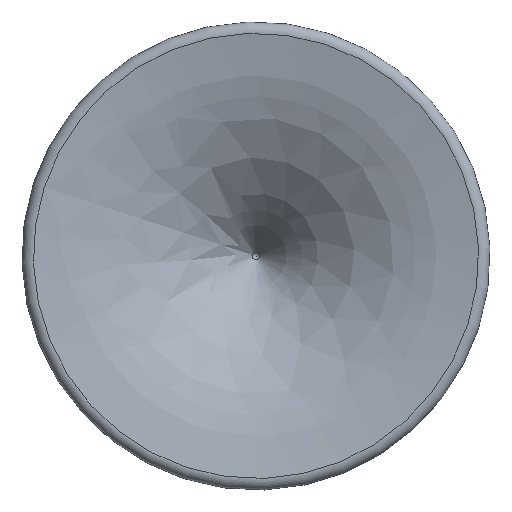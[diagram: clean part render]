
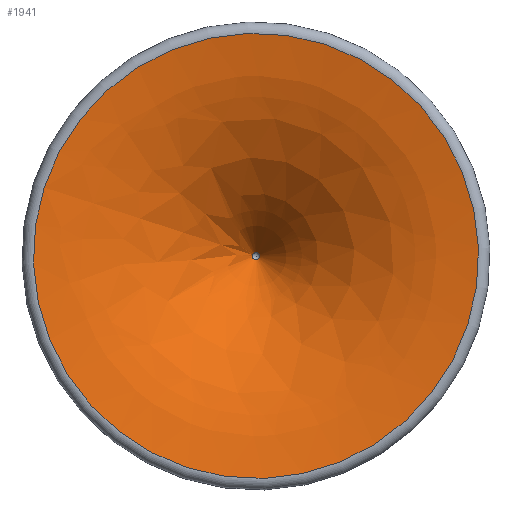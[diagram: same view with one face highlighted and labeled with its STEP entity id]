
A CAD part, top view. The second image highlights one B-rep face of the part: STEP entity #1941.
In plain terms, the highlighted free-form (B-spline) face has degree [2, 2] with [3, 9] control points.
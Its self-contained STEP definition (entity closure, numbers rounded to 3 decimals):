
#18=(
BOUNDED_SURFACE()
B_SPLINE_SURFACE(2,2,((#3646,#3647,#3648,#3649,#3650,#3651,#3652,#3653,
#3654),(#3655,#3656,#3657,#3658,#3659,#3660,#3661,#3662,#3663),(#3664,#3665,
#3666,#3667,#3668,#3669,#3670,#3671,#3672)),.UNSPECIFIED.,.F.,.T.,.F.)
B_SPLINE_SURFACE_WITH_KNOTS((3,3),(3,2,2,2,3),(1.675,2.543),
(-3.142,-1.571,0.,1.571,3.142),
 .UNSPECIFIED.)
GEOMETRIC_REPRESENTATION_ITEM()
RATIONAL_B_SPLINE_SURFACE(((1.,0.707,1.,0.707,1.,
0.707,1.,0.707,1.),(0.907,0.642,
0.907,0.642,0.907,0.642,
0.907,0.642,0.907),(1.,0.707,
1.,0.707,1.,0.707,1.,0.707,1.)))
REPRESENTATION_ITEM('')
SURFACE()
);
#367=FACE_OUTER_BOUND('',#531,.T.);
#531=EDGE_LOOP('',(#1678,#1679,#1680,#1681,#1682));
#870=CIRCLE('',#2402,4.129);
#872=CIRCLE('',#2404,4.129);
#873=CIRCLE('',#2405,256.751);
#874=CIRCLE('',#2406,350.);
#1027=VERTEX_POINT('',#3640);
#1028=VERTEX_POINT('',#3641);
#1030=VERTEX_POINT('',#3673);
#1249=EDGE_CURVE('',#1027,#1028,#870,.T.);
#1251=EDGE_CURVE('',#1028,#1027,#872,.T.);
#1252=EDGE_CURVE('',#1030,#1030,#873,.T.);
#1253=EDGE_CURVE('',#1030,#1027,#874,.T.);
#1678=ORIENTED_EDGE('',*,*,#1252,.T.);
#1679=ORIENTED_EDGE('',*,*,#1253,.T.);
#1680=ORIENTED_EDGE('',*,*,#1251,.F.);
#1681=ORIENTED_EDGE('',*,*,#1249,.F.);
#1682=ORIENTED_EDGE('',*,*,#1253,.F.);
#1941=ADVANCED_FACE('',(#367),#18,.F.);
#2402=AXIS2_PLACEMENT_3D('',#3642,#2971,#2972);
#2404=AXIS2_PLACEMENT_3D('',#3645,#2975,#2976);
#2405=AXIS2_PLACEMENT_3D('',#3674,#2977,#2978);
#2406=AXIS2_PLACEMENT_3D('',#3675,#2979,#2980);
#2971=DIRECTION('center_axis',(0.,0.,1.));
#2972=DIRECTION('ref_axis',(1.,0.,0.));
#2975=DIRECTION('center_axis',(0.,0.,1.));
#2976=DIRECTION('ref_axis',(1.,0.,0.));
#2977=DIRECTION('center_axis',(0.,0.,1.));
#2978=DIRECTION('ref_axis',(1.,0.,0.));
#2979=DIRECTION('center_axis',(0.,1.,0.));
#2980=DIRECTION('ref_axis',(-1.,0.,0.));
#3640=CARTESIAN_POINT('',(-4.129,0.,338.681));
#3641=CARTESIAN_POINT('',(0.,4.129,338.681));
#3642=CARTESIAN_POINT('Origin',(0.,0.,338.681));
#3645=CARTESIAN_POINT('Origin',(0.,0.,338.681));
#3646=CARTESIAN_POINT('Ctrl Pts',(-256.751,0.,
489.435));
#3647=CARTESIAN_POINT('Ctrl Pts',(-256.751,-256.751,489.435));
#3648=CARTESIAN_POINT('Ctrl Pts',(0.,-256.751,
489.435));
#3649=CARTESIAN_POINT('Ctrl Pts',(256.751,-256.751,489.435));
#3650=CARTESIAN_POINT('Ctrl Pts',(256.751,0.,
489.435));
#3651=CARTESIAN_POINT('Ctrl Pts',(256.751,256.751,489.435));
#3652=CARTESIAN_POINT('Ctrl Pts',(0.,256.751,
489.435));
#3653=CARTESIAN_POINT('Ctrl Pts',(-256.751,256.751,489.435));
#3654=CARTESIAN_POINT('Ctrl Pts',(-256.751,0.,
489.435));
#3655=CARTESIAN_POINT('Ctrl Pts',(-95.529,0.,
472.559));
#3656=CARTESIAN_POINT('Ctrl Pts',(-95.529,-95.529,472.559));
#3657=CARTESIAN_POINT('Ctrl Pts',(0.,-95.529,
472.559));
#3658=CARTESIAN_POINT('Ctrl Pts',(95.529,-95.529,472.559));
#3659=CARTESIAN_POINT('Ctrl Pts',(95.529,0.,
472.559));
#3660=CARTESIAN_POINT('Ctrl Pts',(95.529,95.529,472.559));
#3661=CARTESIAN_POINT('Ctrl Pts',(0.,95.529,
472.559));
#3662=CARTESIAN_POINT('Ctrl Pts',(-95.529,95.529,472.559));
#3663=CARTESIAN_POINT('Ctrl Pts',(-95.529,0.,
472.559));
#3664=CARTESIAN_POINT('Ctrl Pts',(-4.129,0.,
338.681));
#3665=CARTESIAN_POINT('Ctrl Pts',(-4.129,-4.129,338.681));
#3666=CARTESIAN_POINT('Ctrl Pts',(0.,-4.129,
338.681));
#3667=CARTESIAN_POINT('Ctrl Pts',(4.129,-4.129,338.681));
#3668=CARTESIAN_POINT('Ctrl Pts',(4.129,0.,
338.681));
#3669=CARTESIAN_POINT('Ctrl Pts',(4.129,4.129,338.681));
#3670=CARTESIAN_POINT('Ctrl Pts',(0.,4.129,
338.681));
#3671=CARTESIAN_POINT('Ctrl Pts',(-4.129,4.129,338.681));
#3672=CARTESIAN_POINT('Ctrl Pts',(-4.129,0.,
338.681));
#3673=CARTESIAN_POINT('',(-256.751,0.,489.435));
#3674=CARTESIAN_POINT('Origin',(0.,0.,489.435));
#3675=CARTESIAN_POINT('Origin',(-293.189,0.,
141.337));
